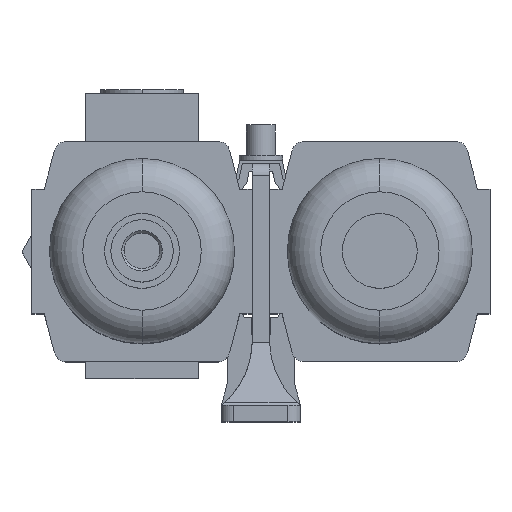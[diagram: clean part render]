
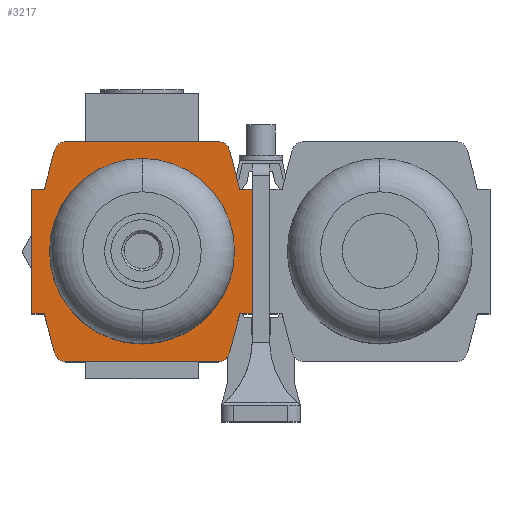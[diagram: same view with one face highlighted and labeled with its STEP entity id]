
A CAD part, top view. The second image highlights one B-rep face of the part: STEP entity #3217.
In plain terms, the highlighted planar face has unit normal (0, 0, 1).
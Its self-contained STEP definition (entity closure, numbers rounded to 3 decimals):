
#39 = VERTEX_POINT ( 'NONE', #2696 ) ;
#97 = DIRECTION ( 'NONE',  ( 0., 0., -1. ) ) ;
#140 = CARTESIAN_POINT ( 'NONE',  ( 23.5, -15., 0. ) ) ;
#143 = CARTESIAN_POINT ( 'NONE',  ( 18.182, 23.5, 0. ) ) ;
#213 = VERTEX_POINT ( 'NONE', #15574 ) ;
#403 = CIRCLE ( 'NONE', #1784, 15. ) ;
#430 = CARTESIAN_POINT ( 'NONE',  ( 18.182, 26.5, 0. ) ) ;
#509 = EDGE_LOOP ( 'NONE', ( #2615, #14858, #7433, #1612, #6968, #9762, #3633, #2779, #13726, #12144, #4689, #15842, #605, #4662, #14996, #13613 ) ) ;
#605 = ORIENTED_EDGE ( 'NONE', *, *, #5750, .F. ) ;
#835 = CARTESIAN_POINT ( 'NONE',  ( -15., 0., 0. ) ) ;
#1224 = CIRCLE ( 'NONE', #12516, 3. ) ;
#1348 = CARTESIAN_POINT ( 'NONE',  ( -21.085, 24.257, 0. ) ) ;
#1430 = LINE ( 'NONE', #140, #7022 ) ;
#1612 = ORIENTED_EDGE ( 'NONE', *, *, #16875, .F. ) ;
#1744 = AXIS2_PLACEMENT_3D ( 'NONE', #10946, #9903, #15004 ) ;
#1784 = AXIS2_PLACEMENT_3D ( 'NONE', #2517, #97, #15796 ) ;
#1866 = EDGE_CURVE ( 'NONE', #11759, #10386, #14488, .T. ) ;
#1868 = DIRECTION ( 'NONE',  ( 0., -1., 0. ) ) ;
#1890 = DIRECTION ( 'NONE',  ( 0., 0., -1. ) ) ;
#2136 = DIRECTION ( 'NONE',  ( 1., 0., 0. ) ) ;
#2200 = CARTESIAN_POINT ( 'NONE',  ( -23.5, 15., 0. ) ) ;
#2341 = CARTESIAN_POINT ( 'NONE',  ( -21.085, -24.257, 0. ) ) ;
#2393 = DIRECTION ( 'NONE',  ( -0.252, -0.968, 0. ) ) ;
#2517 = CARTESIAN_POINT ( 'NONE',  ( 0., 0., 0. ) ) ;
#2598 = CARTESIAN_POINT ( 'NONE',  ( -21.085, -24.257, 0. ) ) ;
#2615 = ORIENTED_EDGE ( 'NONE', *, *, #6546, .F. ) ;
#2617 = EDGE_CURVE ( 'NONE', #13824, #14950, #2947, .T. ) ;
#2641 = VECTOR ( 'NONE', #9072, 1000. ) ;
#2656 = DIRECTION ( 'NONE',  ( 1., 0., 0. ) ) ;
#2696 = CARTESIAN_POINT ( 'NONE',  ( -18.182, 26.5, 0. ) ) ;
#2779 = ORIENTED_EDGE ( 'NONE', *, *, #4908, .F. ) ;
#2947 = LINE ( 'NONE', #2598, #6050 ) ;
#2995 = VERTEX_POINT ( 'NONE', #8101 ) ;
#3217 = ADVANCED_FACE ( 'NONE', ( #12832, #3599 ), #16623, .F. ) ;
#3240 = CARTESIAN_POINT ( 'NONE',  ( 21.085, 24.257, 0. ) ) ;
#3277 = ORIENTED_EDGE ( 'NONE', *, *, #9398, .T. ) ;
#3335 = DIRECTION ( 'NONE',  ( 1., 0., 0. ) ) ;
#3599 = FACE_BOUND ( 'NONE', #16653, .T. ) ;
#3633 = ORIENTED_EDGE ( 'NONE', *, *, #5694, .F. ) ;
#4029 = DIRECTION ( 'NONE',  ( 0., 0., -1. ) ) ;
#4078 = EDGE_CURVE ( 'NONE', #14950, #8009, #7368, .T. ) ;
#4583 = EDGE_CURVE ( 'NONE', #13339, #6965, #10995, .T. ) ;
#4662 = ORIENTED_EDGE ( 'NONE', *, *, #12765, .F. ) ;
#4689 = ORIENTED_EDGE ( 'NONE', *, *, #14655, .F. ) ;
#4814 = DIRECTION ( 'NONE',  ( 1., 0., 0. ) ) ;
#4886 = CARTESIAN_POINT ( 'NONE',  ( 21.085, 24.257, 0. ) ) ;
#4908 = EDGE_CURVE ( 'NONE', #16199, #5556, #10713, .T. ) ;
#4969 = DIRECTION ( 'NONE',  ( 0.252, -0.968, 0. ) ) ;
#4980 = DIRECTION ( 'NONE',  ( 0., 0., -1. ) ) ;
#5056 = CIRCLE ( 'NONE', #1744, 15. ) ;
#5556 = VERTEX_POINT ( 'NONE', #7402 ) ;
#5568 = CARTESIAN_POINT ( 'NONE',  ( -23.5, 15., 0. ) ) ;
#5601 = VECTOR ( 'NONE', #1868, 1000. ) ;
#5694 = EDGE_CURVE ( 'NONE', #5556, #9386, #1430, .T. ) ;
#5750 = EDGE_CURVE ( 'NONE', #39, #9443, #16259, .T. ) ;
#6050 = VECTOR ( 'NONE', #7868, 1000. ) ;
#6055 = VECTOR ( 'NONE', #8374, 1000. ) ;
#6069 = CIRCLE ( 'NONE', #6904, 3. ) ;
#6242 = VECTOR ( 'NONE', #16180, 1000. ) ;
#6338 = ORIENTED_EDGE ( 'NONE', *, *, #7737, .T. ) ;
#6352 = VECTOR ( 'NONE', #16702, 1000. ) ;
#6400 = LINE ( 'NONE', #14173, #2641 ) ;
#6509 = CARTESIAN_POINT ( 'NONE',  ( 18.182, -26.5, 0. ) ) ;
#6546 = EDGE_CURVE ( 'NONE', #8009, #213, #6400, .T. ) ;
#6904 = AXIS2_PLACEMENT_3D ( 'NONE', #15003, #1890, #8194 ) ;
#6965 = VERTEX_POINT ( 'NONE', #1348 ) ;
#6968 = ORIENTED_EDGE ( 'NONE', *, *, #1866, .F. ) ;
#7022 = VECTOR ( 'NONE', #2393, 1000. ) ;
#7368 = LINE ( 'NONE', #16578, #16413 ) ;
#7402 = CARTESIAN_POINT ( 'NONE',  ( 23.5, -15., 0. ) ) ;
#7433 = ORIENTED_EDGE ( 'NONE', *, *, #2617, .F. ) ;
#7737 = EDGE_CURVE ( 'NONE', #7915, #8348, #403, .T. ) ;
#7810 = EDGE_CURVE ( 'NONE', #9386, #11759, #1224, .T. ) ;
#7868 = DIRECTION ( 'NONE',  ( -0.252, 0.968, 0. ) ) ;
#7915 = VERTEX_POINT ( 'NONE', #8296 ) ;
#8009 = VERTEX_POINT ( 'NONE', #12684 ) ;
#8101 = CARTESIAN_POINT ( 'NONE',  ( 26.5, 15., 0. ) ) ;
#8131 = DIRECTION ( 'NONE',  ( 1., 0., 0. ) ) ;
#8194 = DIRECTION ( 'NONE',  ( 1., 0., 0. ) ) ;
#8296 = CARTESIAN_POINT ( 'NONE',  ( 15., 0., 0. ) ) ;
#8348 = VERTEX_POINT ( 'NONE', #835 ) ;
#8350 = CARTESIAN_POINT ( 'NONE',  ( 18.182, -26.5, 0. ) ) ;
#8374 = DIRECTION ( 'NONE',  ( -1., 0., 0. ) ) ;
#8599 = CARTESIAN_POINT ( 'NONE',  ( -18.182, 23.5, 0. ) ) ;
#8604 = CARTESIAN_POINT ( 'NONE',  ( 21.085, -24.257, 0. ) ) ;
#8646 = CIRCLE ( 'NONE', #13056, 3. ) ;
#8655 = CARTESIAN_POINT ( 'NONE',  ( -18.182, -26.5, 0. ) ) ;
#8698 = LINE ( 'NONE', #8777, #16917 ) ;
#8777 = CARTESIAN_POINT ( 'NONE',  ( 23.5, 15., 0. ) ) ;
#8858 = DIRECTION ( 'NONE',  ( 0., 0., -1. ) ) ;
#9072 = DIRECTION ( 'NONE',  ( 0., 1., 0. ) ) ;
#9334 = CARTESIAN_POINT ( 'NONE',  ( 26.5, -15., 0. ) ) ;
#9386 = VERTEX_POINT ( 'NONE', #8604 ) ;
#9398 = EDGE_CURVE ( 'NONE', #8348, #7915, #5056, .T. ) ;
#9443 = VERTEX_POINT ( 'NONE', #430 ) ;
#9502 = CARTESIAN_POINT ( 'NONE',  ( 18.182, -23.5, 0. ) ) ;
#9762 = ORIENTED_EDGE ( 'NONE', *, *, #7810, .F. ) ;
#9795 = EDGE_CURVE ( 'NONE', #2995, #16199, #13690, .T. ) ;
#9815 = VERTEX_POINT ( 'NONE', #3240 ) ;
#9903 = DIRECTION ( 'NONE',  ( 0., 0., -1. ) ) ;
#9958 = LINE ( 'NONE', #11432, #6352 ) ;
#10386 = VERTEX_POINT ( 'NONE', #8655 ) ;
#10713 = LINE ( 'NONE', #9334, #6055 ) ;
#10946 = CARTESIAN_POINT ( 'NONE',  ( 0., 0., 0. ) ) ;
#10995 = LINE ( 'NONE', #5568, #6242 ) ;
#11018 = DIRECTION ( 'NONE',  ( -1., 0., 0. ) ) ;
#11260 = LINE ( 'NONE', #4886, #17057 ) ;
#11432 = CARTESIAN_POINT ( 'NONE',  ( -26.5, 15., 0. ) ) ;
#11530 = CARTESIAN_POINT ( 'NONE',  ( -18.182, -23.5, 0. ) ) ;
#11759 = VERTEX_POINT ( 'NONE', #6509 ) ;
#12144 = ORIENTED_EDGE ( 'NONE', *, *, #16974, .F. ) ;
#12499 = CIRCLE ( 'NONE', #14438, 3. ) ;
#12516 = AXIS2_PLACEMENT_3D ( 'NONE', #9502, #14676, #8131 ) ;
#12608 = VERTEX_POINT ( 'NONE', #15946 ) ;
#12620 = DIRECTION ( 'NONE',  ( -1., 0., 0. ) ) ;
#12684 = CARTESIAN_POINT ( 'NONE',  ( -26.5, -15., 0. ) ) ;
#12765 = EDGE_CURVE ( 'NONE', #6965, #39, #6069, .T. ) ;
#12791 = VECTOR ( 'NONE', #13431, 1000. ) ;
#12832 = FACE_OUTER_BOUND ( 'NONE', #509, .T. ) ;
#13056 = AXIS2_PLACEMENT_3D ( 'NONE', #143, #4029, #2656 ) ;
#13339 = VERTEX_POINT ( 'NONE', #2200 ) ;
#13338 = EDGE_CURVE ( 'NONE', #213, #13339, #9958, .T. ) ;
#13431 = DIRECTION ( 'NONE',  ( 1., 0., 0. ) ) ;
#13613 = ORIENTED_EDGE ( 'NONE', *, *, #13338, .F. ) ;
#13690 = LINE ( 'NONE', #16100, #5601 ) ;
#13726 = ORIENTED_EDGE ( 'NONE', *, *, #9795, .F. ) ;
#13824 = VERTEX_POINT ( 'NONE', #2341 ) ;
#14173 = CARTESIAN_POINT ( 'NONE',  ( -26.5, -15., 0. ) ) ;
#14208 = AXIS2_PLACEMENT_3D ( 'NONE', #8599, #8858, #3335 ) ;
#14438 = AXIS2_PLACEMENT_3D ( 'NONE', #11530, #4980, #4814 ) ;
#14488 = LINE ( 'NONE', #8350, #15474 ) ;
#14655 = EDGE_CURVE ( 'NONE', #9815, #12608, #11260, .T. ) ;
#14676 = DIRECTION ( 'NONE',  ( 0., 0., -1. ) ) ;
#14858 = ORIENTED_EDGE ( 'NONE', *, *, #4078, .F. ) ;
#14950 = VERTEX_POINT ( 'NONE', #14965 ) ;
#14965 = CARTESIAN_POINT ( 'NONE',  ( -23.5, -15., 0. ) ) ;
#14996 = ORIENTED_EDGE ( 'NONE', *, *, #4583, .F. ) ;
#15003 = CARTESIAN_POINT ( 'NONE',  ( -18.182, 23.5, 0. ) ) ;
#15004 = DIRECTION ( 'NONE',  ( 1., 0., 0. ) ) ;
#15474 = VECTOR ( 'NONE', #11018, 1000. ) ;
#15574 = CARTESIAN_POINT ( 'NONE',  ( -26.5, 15., 0. ) ) ;
#15796 = DIRECTION ( 'NONE',  ( 1., 0., 0. ) ) ;
#15842 = ORIENTED_EDGE ( 'NONE', *, *, #17086, .F. ) ;
#15946 = CARTESIAN_POINT ( 'NONE',  ( 23.5, 15., 0. ) ) ;
#16047 = CARTESIAN_POINT ( 'NONE',  ( 26.5, -15., 0. ) ) ;
#16100 = CARTESIAN_POINT ( 'NONE',  ( 26.5, 15., 0. ) ) ;
#16180 = DIRECTION ( 'NONE',  ( 0.252, 0.968, 0. ) ) ;
#16182 = CARTESIAN_POINT ( 'NONE',  ( -18.182, 26.5, 0. ) ) ;
#16199 = VERTEX_POINT ( 'NONE', #16047 ) ;
#16259 = LINE ( 'NONE', #16182, #12791 ) ;
#16413 = VECTOR ( 'NONE', #12620, 1000. ) ;
#16578 = CARTESIAN_POINT ( 'NONE',  ( -23.5, -15., 0. ) ) ;
#16623 = PLANE ( 'NONE',  #14208 ) ;
#16653 = EDGE_LOOP ( 'NONE', ( #3277, #6338 ) ) ;
#16702 = DIRECTION ( 'NONE',  ( 1., 0., 0. ) ) ;
#16875 = EDGE_CURVE ( 'NONE', #10386, #13824, #12499, .T. ) ;
#16917 = VECTOR ( 'NONE', #2136, 1000. ) ;
#16974 = EDGE_CURVE ( 'NONE', #12608, #2995, #8698, .T. ) ;
#17057 = VECTOR ( 'NONE', #4969, 1000. ) ;
#17086 = EDGE_CURVE ( 'NONE', #9443, #9815, #8646, .T. ) ;
